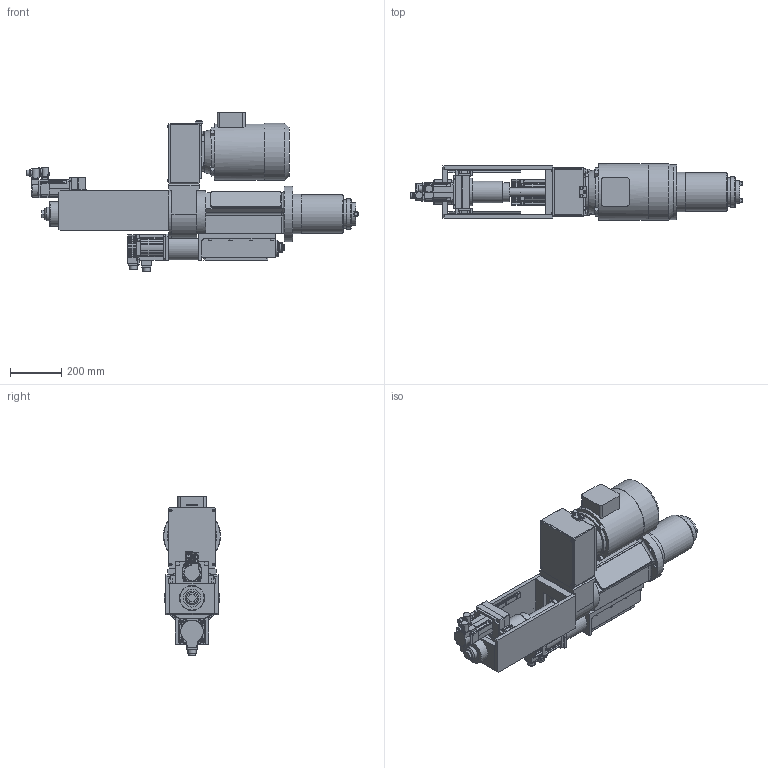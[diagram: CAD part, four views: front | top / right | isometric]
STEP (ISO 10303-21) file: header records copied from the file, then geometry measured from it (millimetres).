
FILE_DESCRIPTION(('STEP AP203'),'1');
FILE_NAME('C:/Users/Saverio/Desktop/FMT 440 CNRC.stp','2015-05-28T15:05:47',(' '),(' '),'Spatial InterOp 3D',' ',' ');
FILE_SCHEMA(('CONFIG_CONTROL_DESIGN'));
Length unit declared in the file: millimetre
Products named in the file (79): Assem2; 52; 51; 50; 49; 48; 47; 46; 45; 44; 43; 42; 41; 40; 39; 38; 37; 36; 35; 34; 33; 32; 31; 30; 29; 28; 27; 26; 25; 24; 23; 22; 21; 20; 19; 18; 17; 16; 15; 14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
Assembly tree (78 placements, depth 6):
  FMT 440 CNRC
    Assem2
      52
      51
      50
      49
      48
      47
      46
      45
      44
      43
      42
      41
      40
      39
      38
      37
      36
      35
      34
      33
      32
      31
      30
      29
      28
      27
      26
      25
      24
      23
      22
      21
      20
      19
      18
      17
      16
      15
      14
      13
      12
      11
      10
      9
      Assem2
        38
        Supporto gruppo spinta tirante
          Piastra di collegam. post.
          Piastra fissaggio
          Costola laterale
          guida 20
          Costola laterale
          guida 20
    Assem1
      7
      6
      5
      4
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Bounding box: 1292.6 x 222 x 621.94 mm (x, y, z)
Volume: 44120652.2 mm3; surface area: 3168298.8 mm2
Topology: 71 solids, 71 shells, 2516 faces, 6235 edges, 4041 vertices
Faces by surface type: plane 1405, cylinder 783, cone 286, torus 26, bspline 16
Full cylindrical faces by diameter (mm): 1 x6, 2 x4, 3.242 x2, 4 x2, 4.5 x8, 5 x11, 5.5 x20, 6 x24, 6.5 x8, 6.637 x4, 6.647 x4, 7 x11, 8 x12, 8.366 x1, 8.5 x12, 9.5 x10, 9.87 x3, 10 x4, 10.25 x4, 10.5 x2, 11 x1, 12.85 x8, 14 x8, 15 x1, 18.3 x1, 19.2 x1, 20 x4, 21.7 x2, 22.7 x2, 23.5 x1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
Entity records: 78218 total; most frequent: CARTESIAN_POINT 16598, DIRECTION 12063, ORIENTED_EDGE 11268, EDGE_CURVE 5634, AXIS2_PLACEMENT_3D 4449, VERTEX_POINT 3929, EDGE_LOOP 3300, LINE 3165
